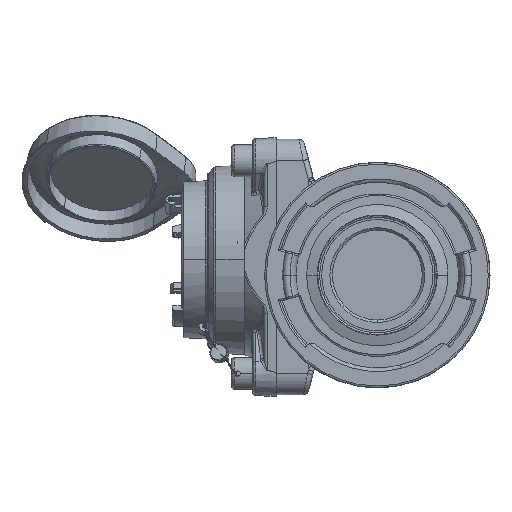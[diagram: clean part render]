
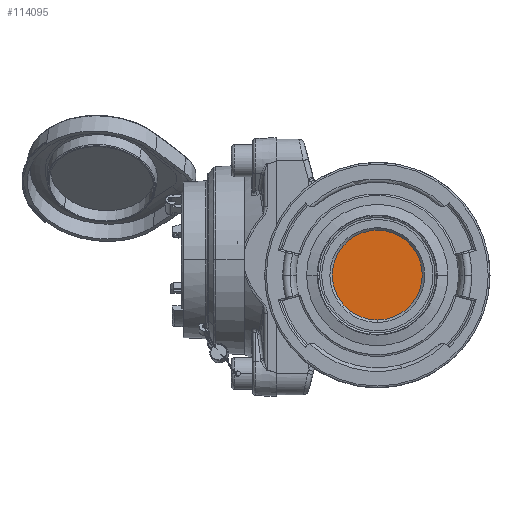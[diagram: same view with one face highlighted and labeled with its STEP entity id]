
A CAD part, left-side view. The second image highlights one B-rep face of the part: STEP entity #114095.
In plain terms, the highlighted planar face has unit normal (-1, 0, 0).
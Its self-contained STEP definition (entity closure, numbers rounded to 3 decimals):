
#1415 = CIRCLE ( 'NONE', #78758, 25.11 ) ;
#7939 = CIRCLE ( 'NONE', #102904, 25.11 ) ;
#8574 = DIRECTION ( 'NONE',  ( -1., 0., 0. ) ) ;
#11155 = CARTESIAN_POINT ( 'NONE',  ( -98.61, 0., 25.11 ) ) ;
#11887 = EDGE_CURVE ( 'NONE', #128523, #45371, #7939, .T. ) ;
#18004 = ORIENTED_EDGE ( 'NONE', *, *, #11887, .T. ) ;
#23000 = EDGE_CURVE ( 'NONE', #45371, #128523, #1415, .T. ) ;
#30816 = CARTESIAN_POINT ( 'NONE',  ( -98.61, 0., 0. ) ) ;
#42464 = CARTESIAN_POINT ( 'NONE',  ( -98.61, 0., 0. ) ) ;
#45371 = VERTEX_POINT ( 'NONE', #11155 ) ;
#47166 = ORIENTED_EDGE ( 'NONE', *, *, #23000, .T. ) ;
#70067 = CARTESIAN_POINT ( 'NONE',  ( -98.61, 0., 0. ) ) ;
#70774 = DIRECTION ( 'NONE',  ( -1., 0., 0. ) ) ;
#72340 = PLANE ( 'NONE',  #103835 ) ;
#73715 = DIRECTION ( 'NONE',  ( 1., 0., 0. ) ) ;
#78758 = AXIS2_PLACEMENT_3D ( 'NONE', #42464, #8574, #114419 ) ;
#81992 = DIRECTION ( 'NONE',  ( 0., 1., 0. ) ) ;
#83329 = FACE_OUTER_BOUND ( 'NONE', #122167, .T. ) ;
#86270 = CARTESIAN_POINT ( 'NONE',  ( -98.61, 0., -25.11 ) ) ;
#101213 = DIRECTION ( 'NONE',  ( 0., 0., 1. ) ) ;
#102904 = AXIS2_PLACEMENT_3D ( 'NONE', #70067, #70774, #101213 ) ;
#103835 = AXIS2_PLACEMENT_3D ( 'NONE', #30816, #73715, #81992 ) ;
#114095 = ADVANCED_FACE ( 'NONE', ( #83329 ), #72340, .F. ) ;
#114419 = DIRECTION ( 'NONE',  ( 0., 0., 1. ) ) ;
#122167 = EDGE_LOOP ( 'NONE', ( #47166, #18004 ) ) ;
#128523 = VERTEX_POINT ( 'NONE', #86270 ) ;
